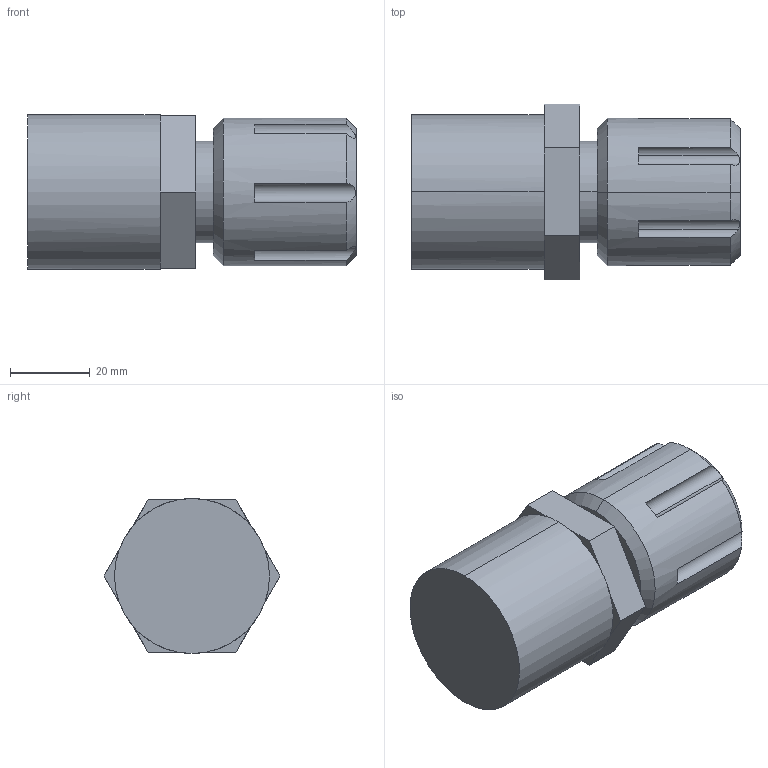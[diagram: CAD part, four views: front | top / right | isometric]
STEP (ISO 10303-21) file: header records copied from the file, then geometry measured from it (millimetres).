
FILE_DESCRIPTION (( 'STEP AP214' ), '1' );
FILE_NAME ('12 FLARETEC FITTING.STEP', '2012-11-30T18:50:49', ( '' ), ( '' ), 'SwSTEP 2.0', 'SolidWorks 2012', '' );
FILE_SCHEMA (( 'AUTOMOTIVE_DESIGN' ));
Length unit declared in the file: inch
Products named in the file (1): 12 FLARETEC FITTING
Bounding box: 82.24 x 43.99 x 38.79 mm (x, y, z)
Volume: 85768.6 mm3; surface area: 13986 mm2
Topology: 1 solids, 1 shells, 49 faces, 116 edges, 72 vertices
Faces by surface type: plane 29, cylinder 16, cone 4
Entity records: 1949 total; most frequent: CARTESIAN_POINT 398, DIRECTION 260, ORIENTED_EDGE 232, EDGE_CURVE 116, AXIS2_PLACEMENT_3D 102, VERTEX_POINT 72, VECTOR 56, LINE 56
